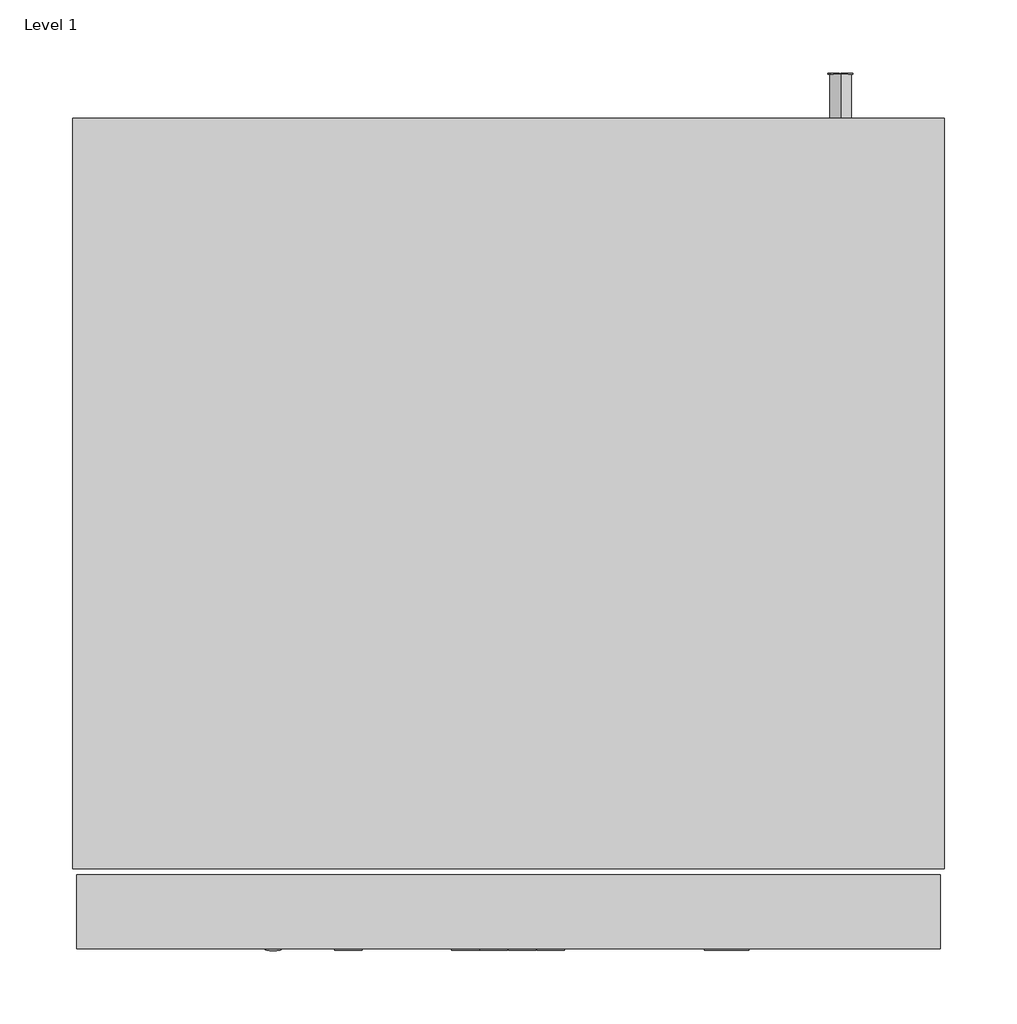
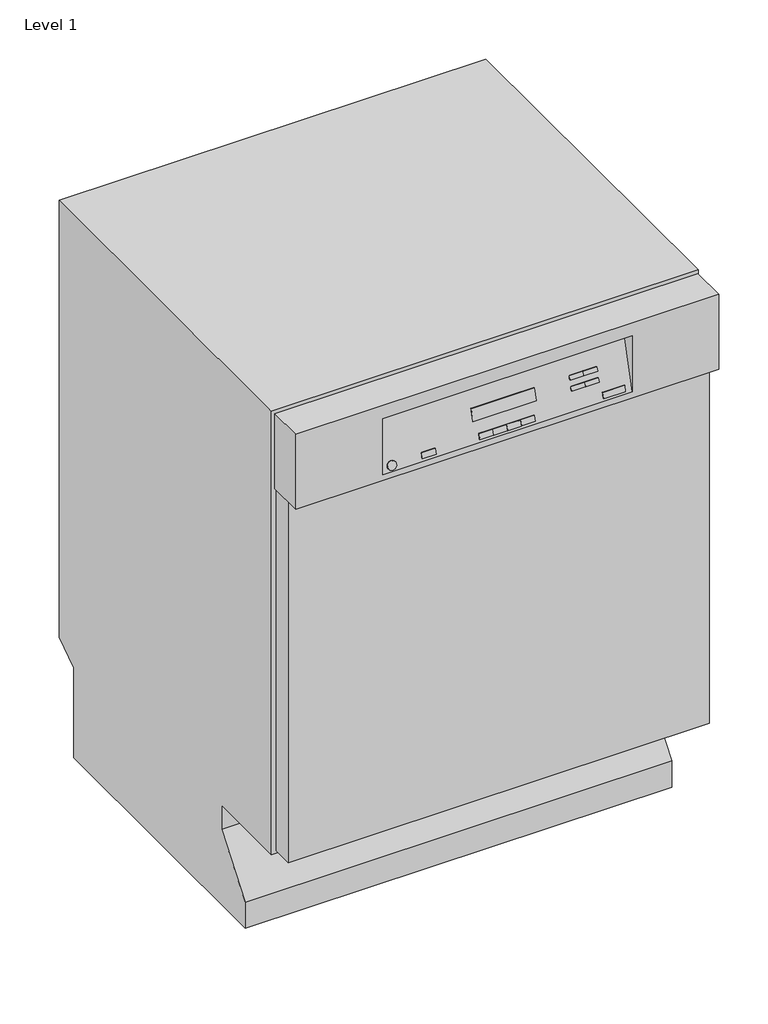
# One storey: 1 proxy.
"""IFC4 building model written with IfcOpenShell, lengths in millimetres."""

from ifc_helpers import new_model, si_unit, origin, place, context, project, spatial, transform, mapped, element, save
from components import specialty_equipment_8d9b36a3

model = new_model("IFC4")

# Units and contexts
model_context = context("Model", 3, world=origin())
ifc_project = project(units=[si_unit("LENGTHUNIT", "METRE", prefix="MILLI")], contexts=[model_context])

# Site, building, storey
site = spatial("IfcSite", under=ifc_project)
building = spatial("IfcBuilding", under=site)
storey = spatial("IfcBuildingStorey", under=building, Name="Level 1", Elevation=0.0)

# Proxy
placement = place(None, origin())
specialty_equipment_shape = specialty_equipment_8d9b36a3(model_context)
element("IfcBuildingElementProxy", 1, Name="10638020_ZER_PG8130i_ED : 61813047_ZER_10638020_PG8130i_ED", ObjectType="10638020_ZER_PG8130i_ED : 61813047_ZER_10638020_PG8130i_ED", at=placement, inside=storey, context=model_context, shape_type="MappedRepresentation", body=[
    mapped(specialty_equipment_shape, transform((0.0, 0.0, 0.0), x_axis=(1.0, 0.0, 0.0), y_axis=(0.0, 1.0, 0.0), z_axis=(0.0, 0.0, 1.0))),
])

save(model, "model.ifc")
